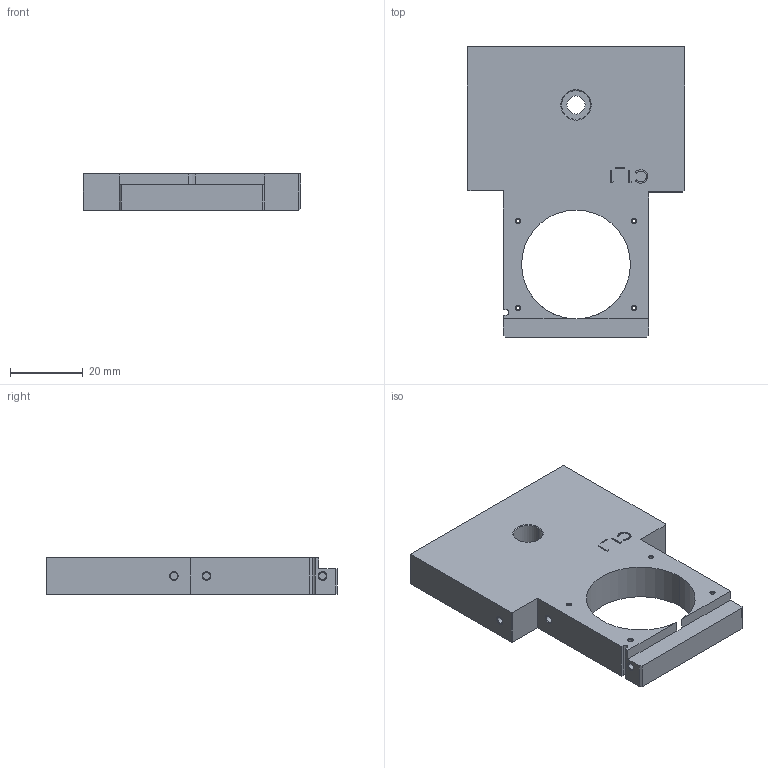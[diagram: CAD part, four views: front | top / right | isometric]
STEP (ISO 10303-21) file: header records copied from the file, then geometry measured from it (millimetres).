
FILE_DESCRIPTION (( 'STEP AP214' ), '1' );
FILE_NAME ('C1_1.STEP', '2016-02-27T11:14:52', ( '' ), ( '' ), 'SwSTEP 2.0', 'SolidWorks 2012', '' );
FILE_SCHEMA (( 'AUTOMOTIVE_DESIGN' ));
Length unit declared in the file: millimetre
Products named in the file (1): C1_1
Bounding box: 60 x 80 x 10 mm (x, y, z)
Volume: 31629.2 mm3; surface area: 10992.9 mm2
Topology: 1 solids, 1 shells, 132 faces, 318 edges, 201 vertices
Faces by surface type: plane 53, cone 36, cylinder 34, bspline 9
Entity records: 4432 total; most frequent: CARTESIAN_POINT 1261, DIRECTION 658, ORIENTED_EDGE 636, EDGE_CURVE 318, AXIS2_PLACEMENT_3D 234, VERTEX_POINT 201, VECTOR 190, LINE 190
